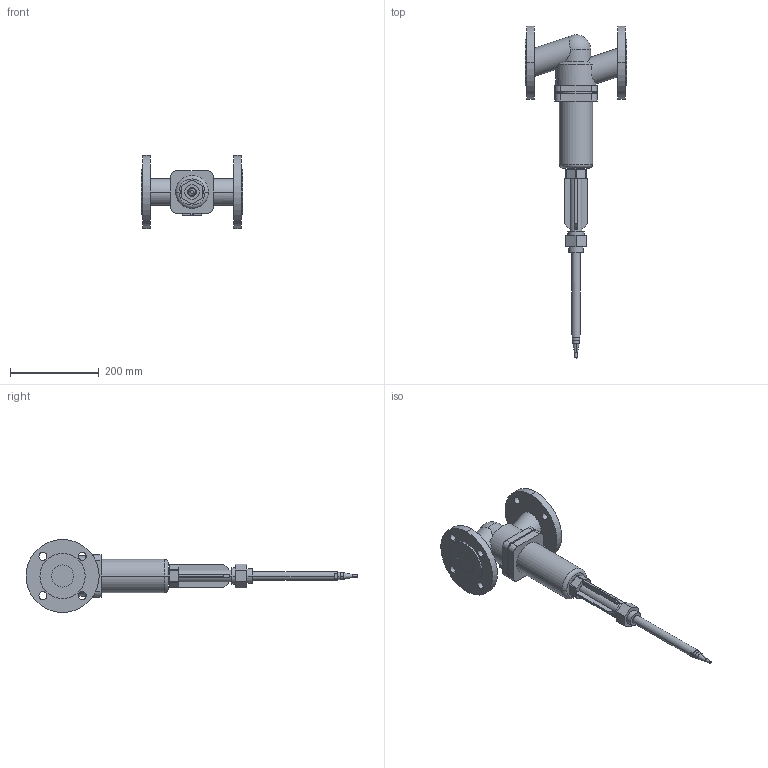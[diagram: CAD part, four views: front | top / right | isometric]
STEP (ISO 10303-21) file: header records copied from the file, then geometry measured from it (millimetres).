
FILE_DESCRIPTION(('CoCreate Modeling STEP Export'),'2;1');
FILE_NAME('c000001247.stp','2011-09-22T10:48:59',(''),(''),'CoCreate Modeling STEP processor for AP214 (Solid Model)','CoCreate Modeling 17.0 01-Apr-2010 (C) Parametric Technology GmbH','');
FILE_SCHEMA(('AUTOMOTIVE_DESIGN { 1 0 10303 214 1 1 1 1 }'));
Length unit declared in the file: millimetre
Products named in the file (1): 1
Bounding box: 230 x 749.44 x 165 mm (x, y, z)
Volume: 2840332.3 mm3; surface area: 266961.7 mm2
Topology: 1 solids, 1 shells, 170 faces, 426 edges, 277 vertices
Faces by surface type: plane 80, cylinder 76, cone 10, torus 2, sphere 2
Entity records: 7621 total; most frequent: CARTESIAN_POINT 2400, ORIENTED_EDGE 848, DIRECTION 727, EDGE_CURVE 424, VERTEX_POINT 277, AXIS2_PLACEMENT_3D 253, VECTOR 221, LINE 221
